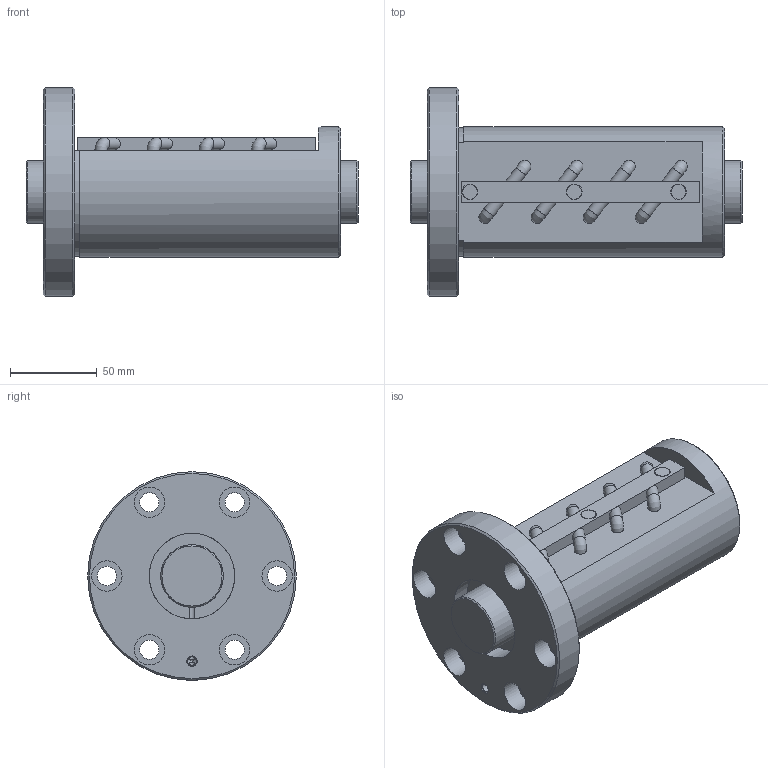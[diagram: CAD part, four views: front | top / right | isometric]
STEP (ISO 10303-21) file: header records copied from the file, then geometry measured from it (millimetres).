
FILE_DESCRIPTION(/* description */ ('STEP AP203'),/* implementation_level */ '2;1');
FILE_NAME(/* name */ 'BIF3610V-10RRG0+191LC0_000',/* time_stamp */ '2024-07-15T08:23:35+02:00',/* author */ ('License CC BY-ND 4.0'),/* organization */ ('CADENAS'),/* preprocessor_version */ 'ST-DEVELOPER v19.3',/* originating_system */ 'PARTsolutions',/* authorisation */ ' ');
FILE_SCHEMA (('CONFIG_CONTROL_DESIGN'));
Length unit declared in the file: millimetre
Products named in the file (3): BIF3610V-10RRG0+191LC0_000; BIF3610V-10RR000 Shaft; BIF3610V-10RR Nut
Assembly tree (2 placements, depth 2):
  BIF3610V-10RRG0+191LC0_000
    BIF3610V-10RR000 Shaft
    BIF3610V-10RR Nut
Bounding box: 191 x 120 x 120 mm (x, y, z)
Volume: 799579.3 mm3; surface area: 115778.9 mm2
Topology: 2 solids, 2 shells, 113 faces, 266 edges, 170 vertices
Faces by surface type: plane 53, cylinder 45, torus 8, cone 7
Full cylindrical faces by diameter (mm): 4 x3, 4.917 x1, 7.1 x8, 8.5 x3, 9 x3, 11 x6, 17.5 x6, 36 x2, 49.2 x2, 75 x1, 120 x1
Entity records: 3164 total; most frequent: CARTESIAN_POINT 627, DIRECTION 562, ORIENTED_EDGE 406, AXIS2_PLACEMENT_3D 258, EDGE_CURVE 203, FACE_BOUND 203, EDGE_LOOP 202, VERTEX_POINT 152
